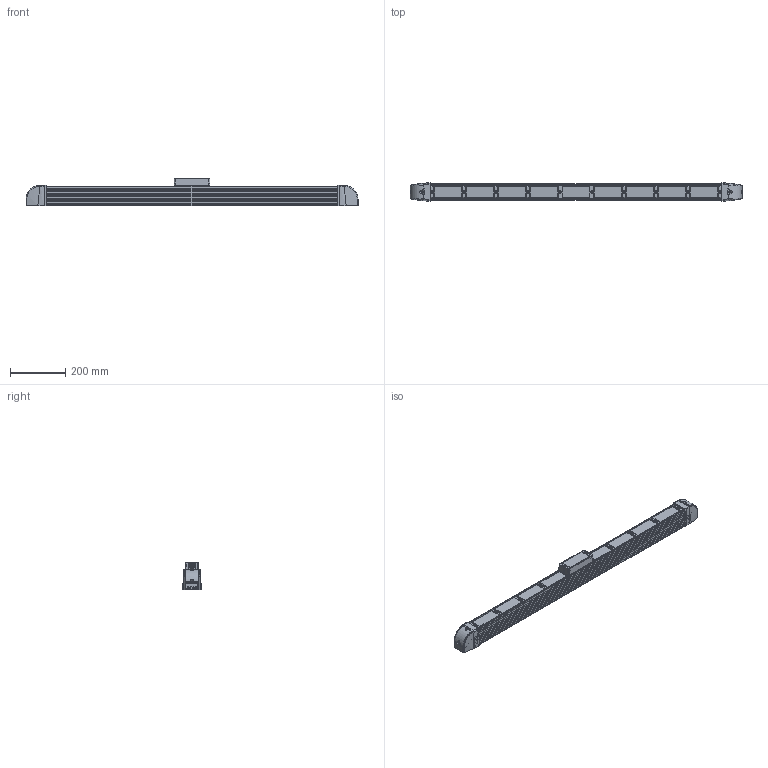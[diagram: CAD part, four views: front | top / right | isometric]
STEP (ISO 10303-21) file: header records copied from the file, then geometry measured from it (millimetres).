
FILE_DESCRIPTION (( 'STEP AP214' ), '1' );
FILE_NAME ('975L-4809-C01P.STEP', '2020-07-23T21:50:38', ( '' ), ( '' ), 'SwSTEP 2.0', 'SolidWorks 2018', '' );
FILE_SCHEMA (( 'AUTOMOTIVE_DESIGN' ));
Length unit declared in the file: inch
Products named in the file (1): 975L-4809-C01P
Bounding box: 1201.4 x 66.55 x 100.27 mm (x, y, z)
Volume: 4289540.6 mm3; surface area: 655185.9 mm2
Topology: 1 solids, 11 shells, 3749 faces, 10430 edges, 6688 vertices
Faces by surface type: plane 1818, cylinder 947, bspline 607, cone 303, torus 48, sphere 26
Entity records: 137261 total; most frequent: CARTESIAN_POINT 49186, ORIENTED_EDGE 20844, DIRECTION 14963, EDGE_CURVE 10422, VERTEX_POINT 6688, VECTOR 5607, LINE 5607, AXIS2_PLACEMENT_3D 4678
